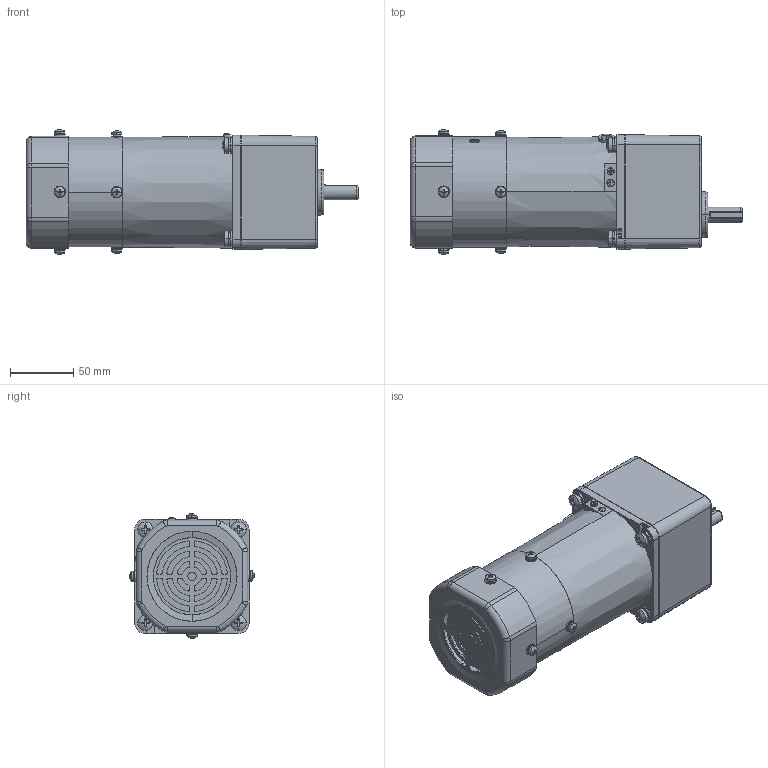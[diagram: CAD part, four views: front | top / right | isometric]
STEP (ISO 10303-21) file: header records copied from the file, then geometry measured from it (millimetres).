
FILE_DESCRIPTION (( 'STEP AP203' ), '1' );
FILE_NAME ('5RK60GN-CMF(5GN3K-200K).STEP', '2020-04-09T08:41:03', ( 'Windows 蚚誧' ), ( '' ), 'SwSTEP 2.0', 'SolidWorks 2019', '' );
FILE_SCHEMA (( 'CONFIG_CONTROL_DESIGN' ));
Length unit declared in the file: millimetre
Products named in the file (7): 5RK40A-CM; 90FZ; 5RK60A-CMF; 5GN3K‵200K; 5RK60GN-CMF(5GN3K-200K); 5RK40A-CM.stp; M3
Assembly tree (6 placements, depth 4):
  5RK60GN-CMF(5GN3K-200K)
    5RK60A-CMF
      5RK40A-CM
        5RK40A-CM.stp
        M3
      90FZ
    5GN3K‵200K
Bounding box: 261.5 x 98.11 x 98.11 mm (x, y, z)
Volume: 1142497.4 mm3; surface area: 184211.4 mm2
Topology: 60 solids, 60 shells, 1484 faces, 3765 edges, 2432 vertices
Faces by surface type: cylinder 630, plane 587, cone 123, sphere 70, torus 54, bspline 20
Entity records: 48195 total; most frequent: CARTESIAN_POINT 10403, DIRECTION 8409, ORIENTED_EDGE 7478, EDGE_CURVE 3739, AXIS2_PLACEMENT_3D 3405, VERTEX_POINT 2432, CIRCLE 1930, EDGE_LOOP 1633
